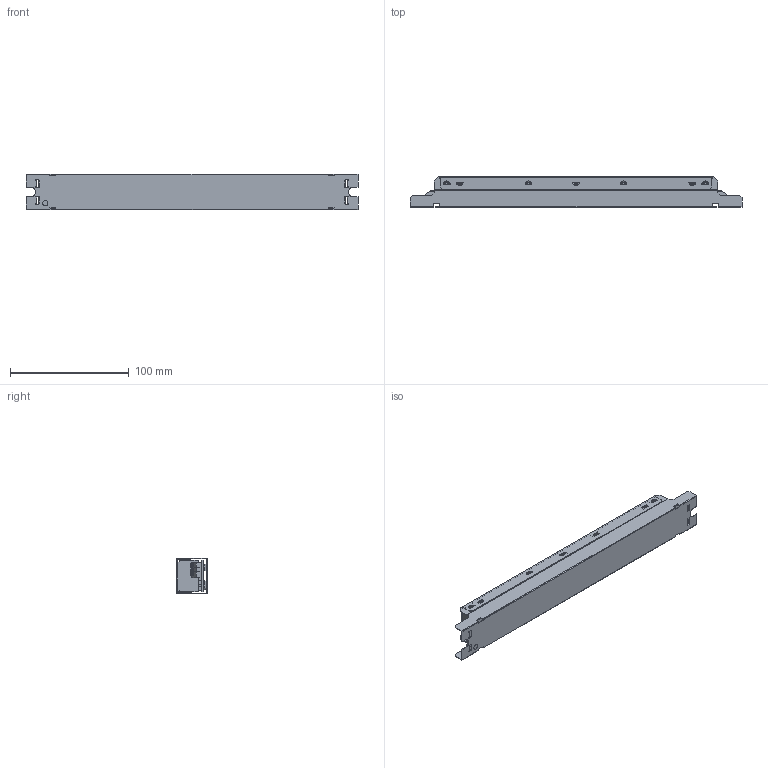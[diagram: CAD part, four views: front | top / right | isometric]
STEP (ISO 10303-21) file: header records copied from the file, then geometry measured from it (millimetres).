
FILE_DESCRIPTION (( 'STEP AP214' ), '1' );
FILE_NAME ('ILOC-2014.STEP', '2016-03-09T18:17:00', ( 'Engineering6' ), ( 'Windows User' ), 'SwSTEP 2.0', 'SolidWorks 2015', '' );
FILE_SCHEMA (( 'AUTOMOTIVE_DESIGN' ));
Length unit declared in the file: millimetre
Products named in the file (9): 2014 BOARD ASSEMBLYMK 02_LONG VER; ILOC SINGLE CONNECTOR; 2014 BOARDMK 02_LONG VER; ILOC-901MK 02_LONG VER; ILOC-2014; ILOC-903MK 02; ILOC-200MK 02; ILOC-201MK 02; ILOC-902MK 02_LONG VER
Assembly tree (8 placements, depth 3):
  ILOC-2014
    ILOC-901MK 02_LONG VER
    2014 BOARD ASSEMBLYMK 02_LONG VER
      2014 BOARDMK 02_LONG VER
      ILOC SINGLE CONNECTOR
    ILOC-902MK 02_LONG VER
    ILOC-200MK 02
      ILOC-201MK 02
    ILOC-903MK 02
Bounding box: 280 x 25.45 x 30.04 mm (x, y, z)
Volume: 28048.9 mm3; surface area: 83941.8 mm2
Topology: 13 solids, 13 shells, 1099 faces, 2747 edges, 1682 vertices
Faces by surface type: plane 607, cylinder 275, bspline 98, torus 62, cone 29, sphere 28
Full cylindrical faces by diameter (mm): 1.02 x3, 2 x1, 2.5 x6, 3.332 x1, 4.3 x2
Entity records: 35124 total; most frequent: CARTESIAN_POINT 8154, ORIENTED_EDGE 5434, DIRECTION 5179, EDGE_CURVE 2717, VECTOR 1783, LINE 1783, AXIS2_PLACEMENT_3D 1698, VERTEX_POINT 1676
